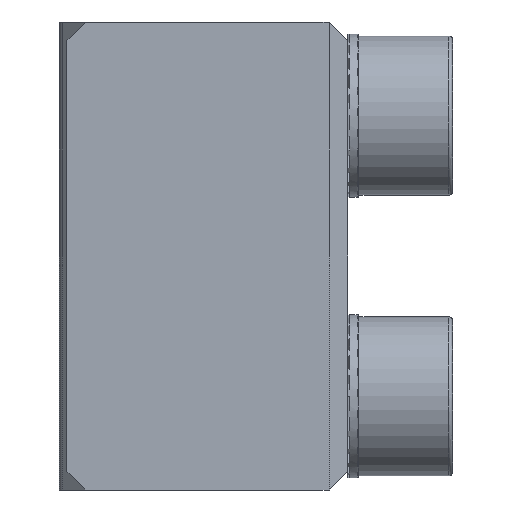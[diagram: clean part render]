
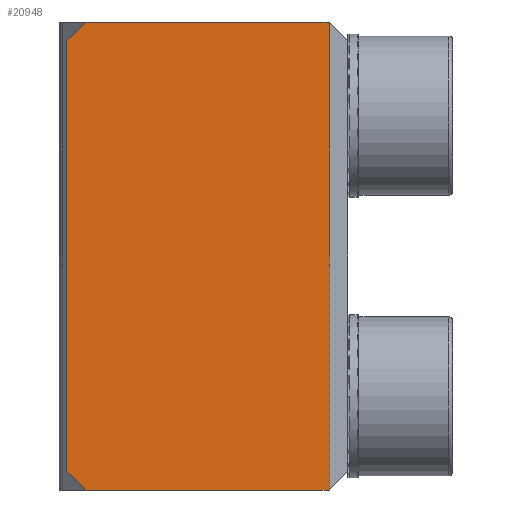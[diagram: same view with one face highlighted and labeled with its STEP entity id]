
A CAD part, front view. The second image highlights one B-rep face of the part: STEP entity #20948.
In plain terms, the highlighted planar face has unit normal (0, -1, 0).
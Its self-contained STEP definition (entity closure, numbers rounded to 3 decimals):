
#202 = LINE ( 'NONE', #5999, #7248 ) ;
#480 = CARTESIAN_POINT ( 'NONE',  ( 38.616, 8.47, -12.5 ) ) ;
#504 = EDGE_CURVE ( 'NONE', #10867, #6076, #23853, .T. ) ;
#1268 = LINE ( 'NONE', #18633, #23295 ) ;
#1721 = CARTESIAN_POINT ( 'NONE',  ( 31.116, 8.47, -12.5 ) ) ;
#3193 = VERTEX_POINT ( 'NONE', #3612 ) ;
#3612 = CARTESIAN_POINT ( 'NONE',  ( 32.116, 8.47, 12.5 ) ) ;
#3662 = VECTOR ( 'NONE', #11989, 1000. ) ;
#3887 = EDGE_CURVE ( 'NONE', #15363, #21836, #16217, .T. ) ;
#5950 = ORIENTED_EDGE ( 'NONE', *, *, #22177, .F. ) ;
#5984 = LINE ( 'NONE', #9473, #18431 ) ;
#5999 = CARTESIAN_POINT ( 'NONE',  ( 45.116, 8.47, 0. ) ) ;
#6076 = VERTEX_POINT ( 'NONE', #10314 ) ;
#7248 = VECTOR ( 'NONE', #8415, 1000. ) ;
#7711 = PLANE ( 'NONE',  #11101 ) ;
#8415 = DIRECTION ( 'NONE',  ( 0., 0., 1. ) ) ;
#8662 = DIRECTION ( 'NONE',  ( -0.707, 0., -0.707 ) ) ;
#9242 = CARTESIAN_POINT ( 'NONE',  ( 31.116, 8.47, 11.5 ) ) ;
#9473 = CARTESIAN_POINT ( 'NONE',  ( 38.616, 8.47, 12.5 ) ) ;
#9958 = CARTESIAN_POINT ( 'NONE',  ( 45.116, 8.47, 12.5 ) ) ;
#10011 = CARTESIAN_POINT ( 'NONE',  ( 31.116, 8.47, 0. ) ) ;
#10018 = VECTOR ( 'NONE', #24131, 1000. ) ;
#10314 = CARTESIAN_POINT ( 'NONE',  ( 31.116, 8.47, -11.5 ) ) ;
#10867 = VERTEX_POINT ( 'NONE', #9242 ) ;
#11101 = AXIS2_PLACEMENT_3D ( 'NONE', #1721, #17703, #17445 ) ;
#11453 = ORIENTED_EDGE ( 'NONE', *, *, #504, .T. ) ;
#11637 = CARTESIAN_POINT ( 'NONE',  ( 32.116, 8.47, -12.5 ) ) ;
#11986 = ORIENTED_EDGE ( 'NONE', *, *, #13396, .T. ) ;
#11989 = DIRECTION ( 'NONE',  ( 0., 0., -1. ) ) ;
#12191 = LINE ( 'NONE', #23925, #17254 ) ;
#12875 = CARTESIAN_POINT ( 'NONE',  ( 45.116, 8.47, -12.5 ) ) ;
#13302 = EDGE_CURVE ( 'NONE', #3193, #10867, #12191, .T. ) ;
#13396 = EDGE_CURVE ( 'NONE', #6076, #21836, #1268, .T. ) ;
#13403 = FACE_OUTER_BOUND ( 'NONE', #18756, .T. ) ;
#13405 = ORIENTED_EDGE ( 'NONE', *, *, #24402, .T. ) ;
#14111 = ORIENTED_EDGE ( 'NONE', *, *, #3887, .F. ) ;
#15363 = VERTEX_POINT ( 'NONE', #12875 ) ;
#16217 = LINE ( 'NONE', #480, #10018 ) ;
#17254 = VECTOR ( 'NONE', #8662, 1000. ) ;
#17291 = VERTEX_POINT ( 'NONE', #9958 ) ;
#17445 = DIRECTION ( 'NONE',  ( 1., 0., 0. ) ) ;
#17703 = DIRECTION ( 'NONE',  ( 0., -1., 0. ) ) ;
#17888 = ORIENTED_EDGE ( 'NONE', *, *, #13302, .T. ) ;
#18431 = VECTOR ( 'NONE', #21215, 1000. ) ;
#18633 = CARTESIAN_POINT ( 'NONE',  ( 31.116, 8.47, -11.5 ) ) ;
#18756 = EDGE_LOOP ( 'NONE', ( #5950, #17888, #11453, #11986, #14111, #13405 ) ) ;
#20658 = DIRECTION ( 'NONE',  ( 0.707, 0., -0.707 ) ) ;
#20948 = ADVANCED_FACE ( 'NONE', ( #13403 ), #7711, .T. ) ;
#21215 = DIRECTION ( 'NONE',  ( 1., 0., 0. ) ) ;
#21836 = VERTEX_POINT ( 'NONE', #11637 ) ;
#22177 = EDGE_CURVE ( 'NONE', #3193, #17291, #5984, .T. ) ;
#23295 = VECTOR ( 'NONE', #20658, 1000. ) ;
#23853 = LINE ( 'NONE', #10011, #3662 ) ;
#23925 = CARTESIAN_POINT ( 'NONE',  ( 32.116, 8.47, 12.5 ) ) ;
#24131 = DIRECTION ( 'NONE',  ( -1., 0., 0. ) ) ;
#24402 = EDGE_CURVE ( 'NONE', #15363, #17291, #202, .T. ) ;
